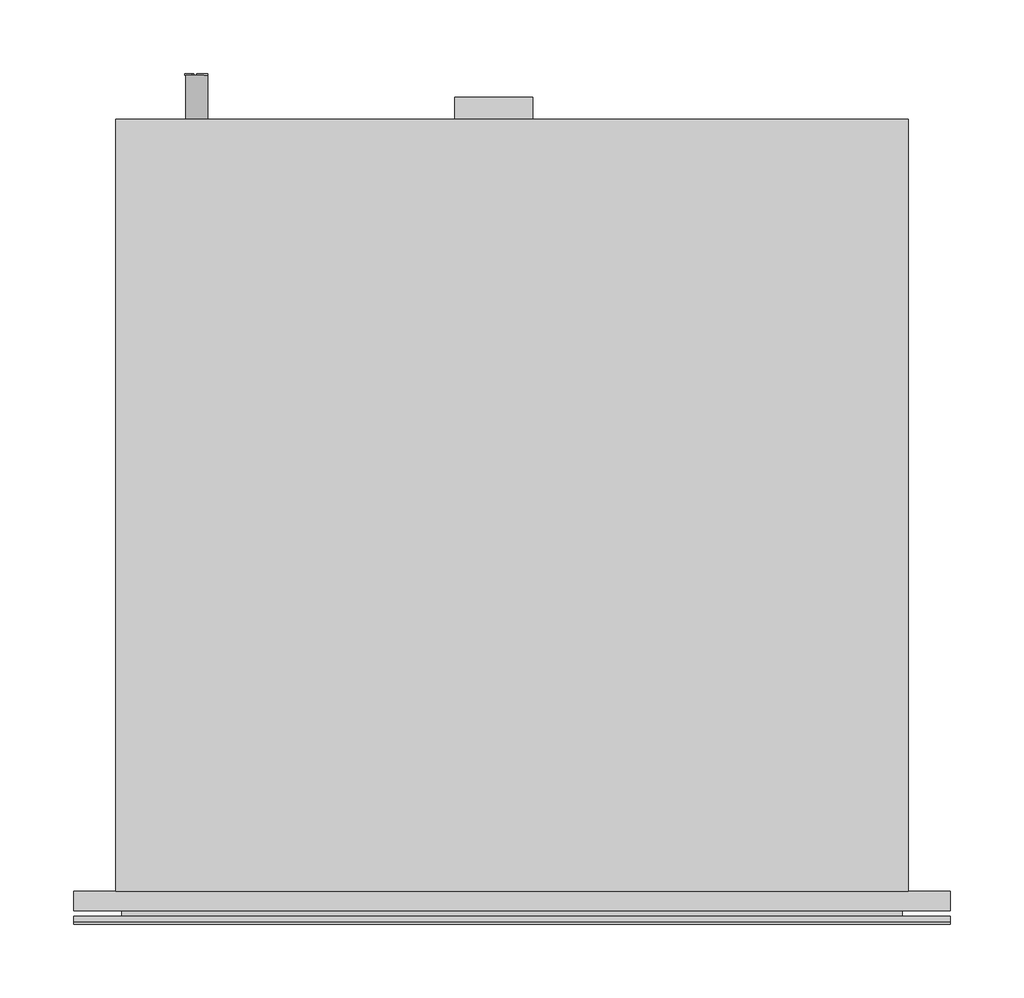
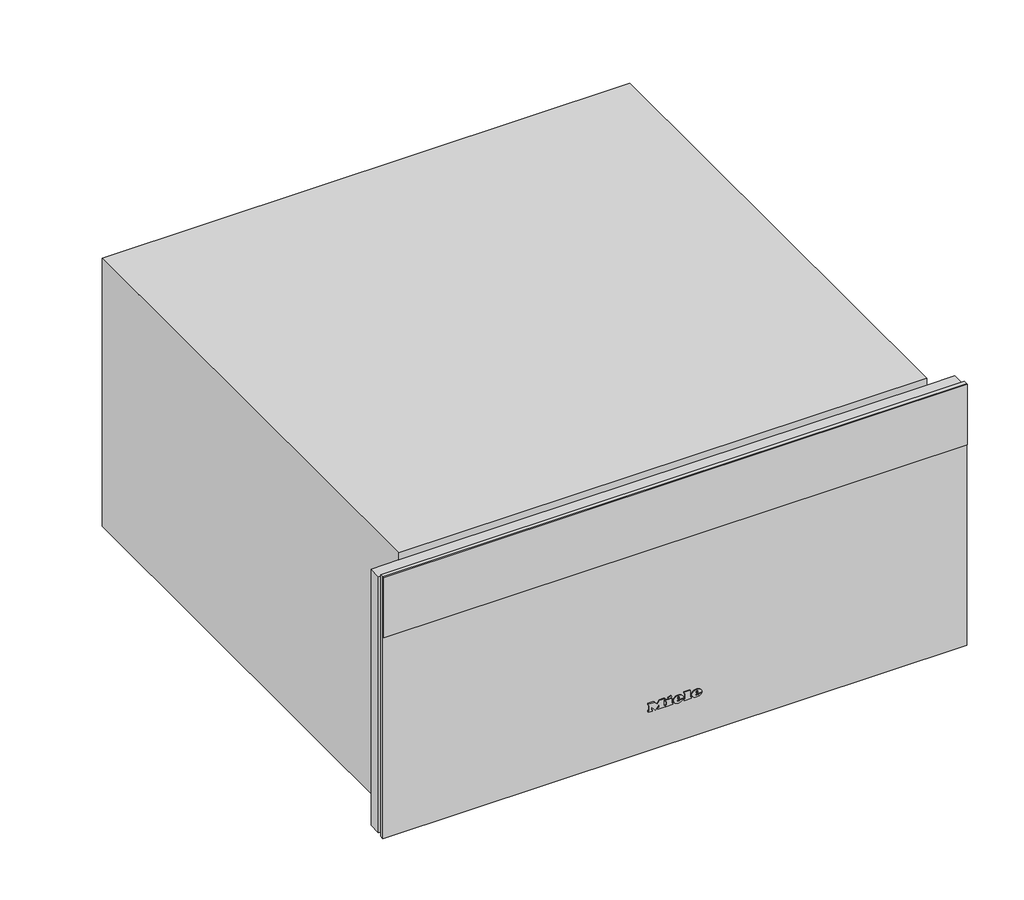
# Not in any storey: 1 proxy.
"""IFC4 building model written with IfcOpenShell, lengths in millimetres."""

from ifc_helpers import new_model, si_unit, origin, place, context, project, spatial, transform, mapped, element, save
from components import specialty_equipment_9ca6b04c

model = new_model("IFC4")

# Units and contexts
model_context = context("Model", 3, world=origin())
ifc_project = project(units=[si_unit("LENGTHUNIT", "METRE", prefix="MILLI")], contexts=[model_context])

# Site, building
site = spatial("IfcSite", under=ifc_project)
building = spatial("IfcBuilding", under=site)

# Proxy
placement = place(None, origin())
specialty_equipment_shape = specialty_equipment_9ca6b04c(model_context)
element("IfcBuildingElementProxy", 1, Name="11171380_NL_ESW7020_EDST-CLST : 30702040_NL_11171380_ESW7020_EDST-CLST", ObjectType="11171380_NL_ESW7020_EDST-CLST : 30702040_NL_11171380_ESW7020_EDST-CLST", at=placement, inside=building, context=model_context, shape_type="MappedRepresentation", body=[
    mapped(specialty_equipment_shape, transform((0.0, 0.0, 0.0), x_axis=(1.0, 0.0, 0.0), y_axis=(0.0, 1.0, 0.0), z_axis=(0.0, 0.0, 1.0))),
])

save(model, "model.ifc")
